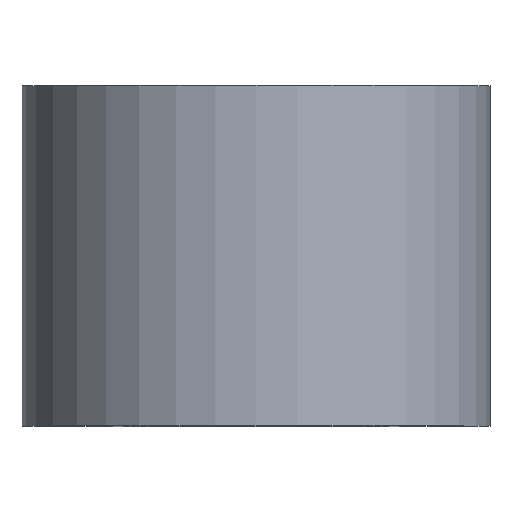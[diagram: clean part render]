
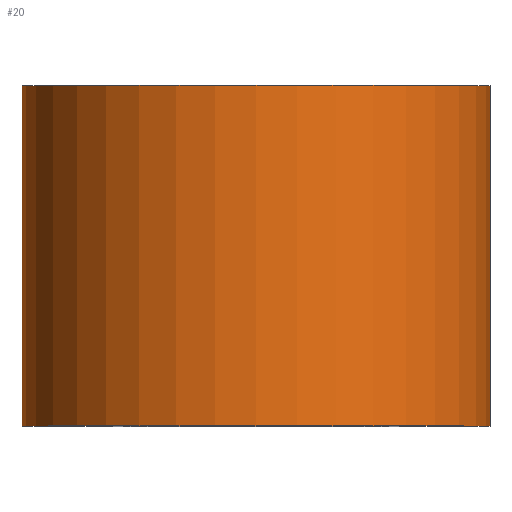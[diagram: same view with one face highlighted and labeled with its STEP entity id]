
A CAD part, top view. The second image highlights one B-rep face of the part: STEP entity #20.
In plain terms, the highlighted cylindrical face has radius 11 mm (diameter 22 mm), a partial arc.
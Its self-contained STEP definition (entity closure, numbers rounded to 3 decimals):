
#2 = DIRECTION ( 'NONE',  ( 0., 1., 0. ) ) ;
#11 = ORIENTED_EDGE ( 'NONE', *, *, #173, .F. ) ;
#12 = CARTESIAN_POINT ( 'NONE',  ( 11., 16., 0. ) ) ;
#20 = ADVANCED_FACE ( 'NONE', ( #120 ), #90, .T. ) ;
#33 = VECTOR ( 'NONE', #2, 1000. ) ;
#34 = CARTESIAN_POINT ( 'NONE',  ( 0., 0., 0. ) ) ;
#46 = CIRCLE ( 'NONE', #210, 11. ) ;
#52 = CARTESIAN_POINT ( 'NONE',  ( -11., 0., 0. ) ) ;
#56 = CARTESIAN_POINT ( 'NONE',  ( 11., 0., 0. ) ) ;
#58 = CARTESIAN_POINT ( 'NONE',  ( 0., 16., 0. ) ) ;
#79 = ORIENTED_EDGE ( 'NONE', *, *, #192, .F. ) ;
#81 = EDGE_CURVE ( 'NONE', #89, #198, #46, .T. ) ;
#88 = LINE ( 'NONE', #261, #33 ) ;
#89 = VERTEX_POINT ( 'NONE', #52 ) ;
#90 = CYLINDRICAL_SURFACE ( 'NONE', #234, 11. ) ;
#94 = EDGE_LOOP ( 'NONE', ( #158, #297, #79, #11 ) ) ;
#96 = DIRECTION ( 'NONE',  ( 0., 1., 0. ) ) ;
#119 = DIRECTION ( 'NONE',  ( 0., 1., 0. ) ) ;
#120 = FACE_OUTER_BOUND ( 'NONE', #94, .T. ) ;
#123 = AXIS2_PLACEMENT_3D ( 'NONE', #58, #96, #136 ) ;
#130 = CARTESIAN_POINT ( 'NONE',  ( 0., 0., 0. ) ) ;
#131 = VECTOR ( 'NONE', #119, 1000. ) ;
#136 = DIRECTION ( 'NONE',  ( -1., 0., 0. ) ) ;
#158 = ORIENTED_EDGE ( 'NONE', *, *, #81, .T. ) ;
#170 = VERTEX_POINT ( 'NONE', #205 ) ;
#173 = EDGE_CURVE ( 'NONE', #89, #170, #88, .T. ) ;
#192 = EDGE_CURVE ( 'NONE', #170, #246, #203, .T. ) ;
#198 = VERTEX_POINT ( 'NONE', #280 ) ;
#201 = EDGE_CURVE ( 'NONE', #198, #246, #271, .T. ) ;
#203 = CIRCLE ( 'NONE', #123, 11. ) ;
#205 = CARTESIAN_POINT ( 'NONE',  ( -11., 16., 0. ) ) ;
#210 = AXIS2_PLACEMENT_3D ( 'NONE', #34, #284, #232 ) ;
#232 = DIRECTION ( 'NONE',  ( -1., 0., 0. ) ) ;
#234 = AXIS2_PLACEMENT_3D ( 'NONE', #130, #259, #255 ) ;
#246 = VERTEX_POINT ( 'NONE', #12 ) ;
#255 = DIRECTION ( 'NONE',  ( -1., 0., 0. ) ) ;
#259 = DIRECTION ( 'NONE',  ( 0., 1., 0. ) ) ;
#261 = CARTESIAN_POINT ( 'NONE',  ( -11., 0., 0. ) ) ;
#271 = LINE ( 'NONE', #56, #131 ) ;
#280 = CARTESIAN_POINT ( 'NONE',  ( 11., 0., 0. ) ) ;
#284 = DIRECTION ( 'NONE',  ( 0., 1., 0. ) ) ;
#297 = ORIENTED_EDGE ( 'NONE', *, *, #201, .T. ) ;
